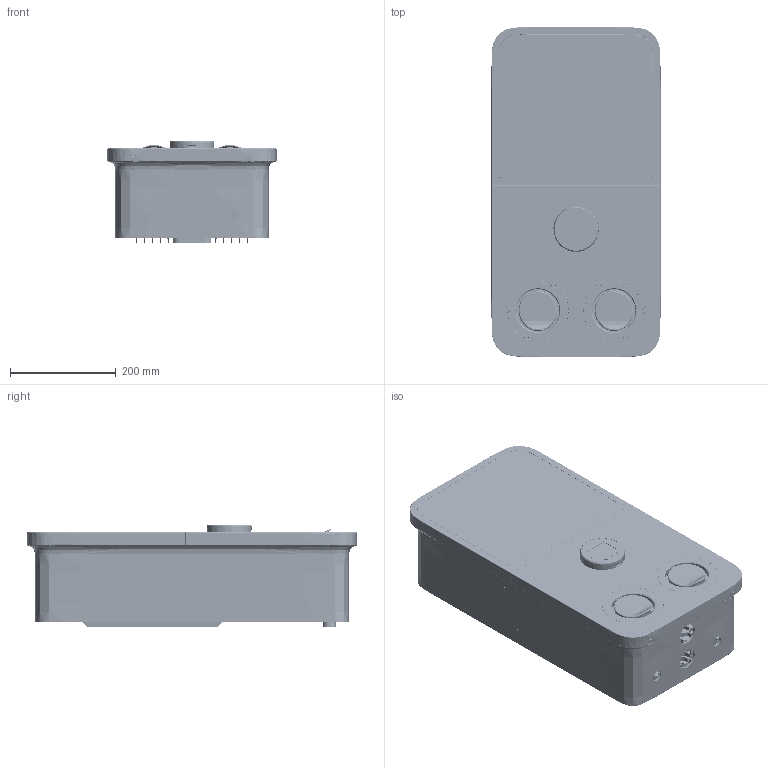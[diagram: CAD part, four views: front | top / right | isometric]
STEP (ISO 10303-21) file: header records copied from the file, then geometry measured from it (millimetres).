
FILE_DESCRIPTION((''),'2;1');
FILE_NAME('EC2223_EU_ASM','2026-01-16T10:58:42',('A24651'),(''),'CREO PARAMETRIC BY PTC INC, 2018100','CREO PARAMETRIC BY PTC INC, 2018100','');
FILE_SCHEMA(('CONFIG_CONTROL_DESIGN','GEOMETRIC_VALIDATION_PROPERTIES_MIM'));
Products named in the file (81): AUT81010940; AUT81010824; AUT61010551_ASM; AUT81020615; AUT81350511; AUT81350512; AUT81200475; AUT81330525; AUT81410519; AUT81470616; AUT81410457; AUT81370641; AC_ULTRA_4G_WIRE; AC_ULTRA_4G_WIRE_ASM; AUT81010965-1; NUT_M3X8; NUT_4X10; CU_NUT_ASSY-1_ASM; 00_EC2211_NFC_PCBA_ASM; AUT81010965-1_ASM; AUT61010519_ASM; AUT81010934; AUT81010934-1; AUT81010934_ASM; AUT81050427; AUT81230478; AUT81010936; ONYX_3D; EC2223_LED_PCB; LED_67-23R6GHBHC-B01-2T; WF20010-05201; FPC05010-43200_114_1; FPC05010-43200_114_2; FPC05010-43200_114_ASM; EC2223_LED_ASM; AUT81350451; AUT81350533; AUT81050432; AUT81350584; NUT_4X6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
Assembly tree (232 placements, depth 6):
  EC2223_EU_ASM
    00-EC2223-EU_ASM
      AUT61010551_ASM
        AUT81010940
        AUT81010824
      AUT61010519_ASM
        AUT81020615
        AUT81350511
        AUT81350512
        AUT81200475
        AUT81330525
        AUT81410519  x12
        AUT81470616  x10
        AUT81410457  x2
        AC_ULTRA_4G_WIRE_ASM
          AUT81370641
          AC_ULTRA_4G_WIRE
        AUT81010965-1_ASM
          AUT81010965-1
          CU_NUT_ASSY-1_ASM
            NUT_M3X8  x35
            NUT_4X10  x4
          00_EC2211_NFC_PCBA_ASM
      AUT61010545_AF1_ASM
        AUT81010934_ASM
          AUT81010934
          AUT81010934-1
        AUT81050427  x2
        AUT81230478  x2
        AUT81010936  x2
        ONYX_3D
        EC2223_LED_ASM  x2
          EC2223_LED_PCB
          LED_67-23R6GHBHC-B01-2T
          WF20010-05201
          FPC05010-43200_114_ASM
            FPC05010-43200_114_1
            FPC05010-43200_114_2
        AUT81350451  x8
        AUT81350533  x2
        AUT61050410_ASM
          AUT81050432
          AUT81350584
          NUT_4X6  x3
        AUT81410519  x3
      AUT61010546_ASM
        AUT81160559
        AUT81060444_ASM  x2
          AUT81060444
          ADHESIVE
        AUT81350515
        AUT81060446_ASM  x2
          AUT81060446
          ADHESIVE1
        AUT81011087_ASM
          AUT81011087
          NUT_4X10  x12
          NUT_5X8  x21
          NUT_M3X8  x4
        AUT81350508
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Bounding box: 320 x 625 x 194.85 mm (x, y, z)
Volume: 4539771 mm3; surface area: 3037972.2 mm2
Topology: 249 solids, 253 shells, 31746 faces, 85090 edges, 54611 vertices
Faces by surface type: plane 18504, cylinder 7710, bspline 2303, cone 1548, torus 705, extrusion 688, sphere 194, revolution 94
Entity records: 1026413 total; most frequent: CARTESIAN_POINT 301545, ORIENTED_EDGE 128052, DIRECTION 114412, EDGE_CURVE 64026, VECTOR 45214, LINE 44588, VERTEX_POINT 41502, PRESENTATION_STYLE_ASSIGNMENT 36819
